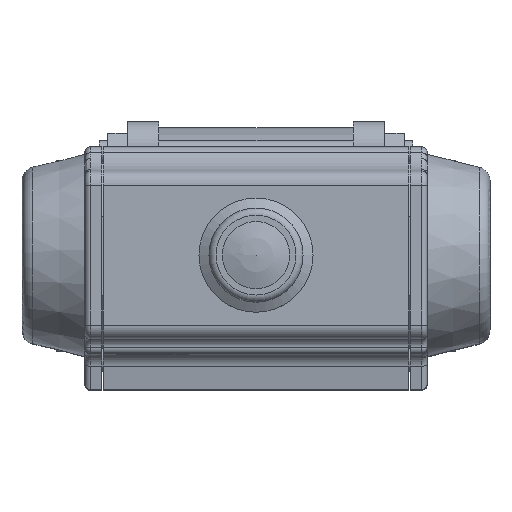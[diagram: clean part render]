
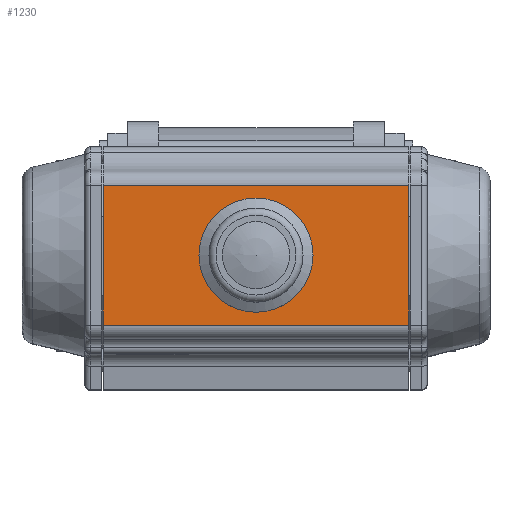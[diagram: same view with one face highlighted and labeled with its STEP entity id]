
A CAD part, top view. The second image highlights one B-rep face of the part: STEP entity #1230.
In plain terms, the highlighted planar face has unit normal (0, 0, 1).
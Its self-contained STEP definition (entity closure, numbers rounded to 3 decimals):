
#1230 = ADVANCED_FACE( '', ( #2763, #2764 ), #2765, .T. );
#2763 = FACE_BOUND( '', #6869, .T. );
#2764 = FACE_OUTER_BOUND( '', #6870, .T. );
#2765 = PLANE( '', #6871 );
#6869 = EDGE_LOOP( '', ( #11497 ) );
#6870 = EDGE_LOOP( '', ( #11498, #11499, #11500, #11501 ) );
#6871 = AXIS2_PLACEMENT_3D( '', #11502, #11503, #11504 );
#11497 = ORIENTED_EDGE( '', *, *, #14983, .F. );
#11498 = ORIENTED_EDGE( '', *, *, #14984, .F. );
#11499 = ORIENTED_EDGE( '', *, *, #14985, .F. );
#11500 = ORIENTED_EDGE( '', *, *, #14658, .T. );
#11501 = ORIENTED_EDGE( '', *, *, #14986, .T. );
#11502 = CARTESIAN_POINT( '', ( 53.5, -24.5, 42. ) );
#11503 = DIRECTION( '', ( 0., 0., 1. ) );
#11504 = DIRECTION( '', ( 1., 0., 0. ) );
#14658 = EDGE_CURVE( '', #17158, #17156, #17159, .T. );
#14983 = EDGE_CURVE( '', #17595, #17595, #17596, .T. );
#14984 = EDGE_CURVE( '', #17597, #17598, #17599, .T. );
#14985 = EDGE_CURVE( '', #17158, #17597, #17600, .T. );
#14986 = EDGE_CURVE( '', #17156, #17598, #17601, .T. );
#17156 = VERTEX_POINT( '', #23058 );
#17158 = VERTEX_POINT( '', #23060 );
#17159 = LINE( '', #23061, #23062 );
#17595 = VERTEX_POINT( '', #24461 );
#17596 = CIRCLE( '', #24462, 20. );
#17597 = VERTEX_POINT( '', #24463 );
#17598 = VERTEX_POINT( '', #24464 );
#17599 = LINE( '', #24465, #24466 );
#17600 = LINE( '', #24467, #24468 );
#17601 = LINE( '', #24469, #24470 );
#23058 = CARTESIAN_POINT( '', ( 53.5, 24.5, 42. ) );
#23060 = CARTESIAN_POINT( '', ( 53.5, -24.5, 42. ) );
#23061 = CARTESIAN_POINT( '', ( 53.5, -24.5, 42. ) );
#23062 = VECTOR( '', #26596, 1000. );
#24461 = CARTESIAN_POINT( '', ( 20., 0., 42. ) );
#24462 = AXIS2_PLACEMENT_3D( '', #26859, #26860, #26861 );
#24463 = CARTESIAN_POINT( '', ( -53.5, -24.5, 42. ) );
#24464 = CARTESIAN_POINT( '', ( -53.5, 24.5, 42. ) );
#24465 = CARTESIAN_POINT( '', ( -53.5, -24.5, 42. ) );
#24466 = VECTOR( '', #26862, 1000. );
#24467 = CARTESIAN_POINT( '', ( 53.5, -24.5, 42. ) );
#24468 = VECTOR( '', #26863, 1000. );
#24469 = CARTESIAN_POINT( '', ( 53.5, 24.5, 42. ) );
#24470 = VECTOR( '', #26864, 1000. );
#26596 = DIRECTION( '', ( 0., 1., 0. ) );
#26859 = CARTESIAN_POINT( '', ( 0., 0., 42. ) );
#26860 = DIRECTION( '', ( 0., 0., 1. ) );
#26861 = DIRECTION( '', ( 1., 0., 0. ) );
#26862 = DIRECTION( '', ( 0., 1., 0. ) );
#26863 = DIRECTION( '', ( -1., 0., 0. ) );
#26864 = DIRECTION( '', ( -1., 0., 0. ) );
